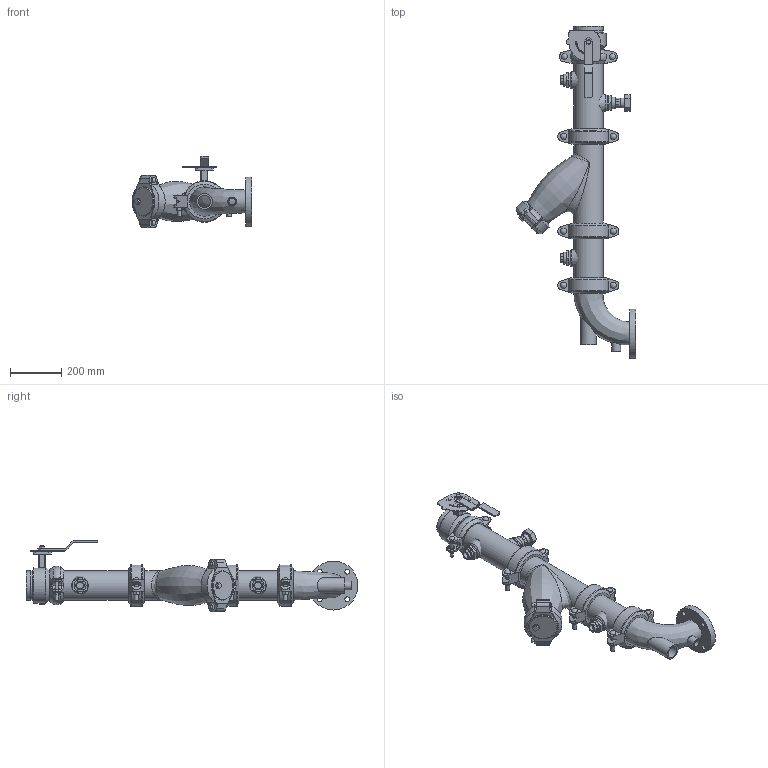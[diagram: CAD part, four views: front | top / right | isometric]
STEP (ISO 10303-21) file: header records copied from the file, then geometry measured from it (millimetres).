
FILE_DESCRIPTION(/* description */ ('VIC SVI PUMP DROP HORZ S/382 (OGSxFLG) (S/924-1.25)','CAx-IF Rec.Pracs.---Representation and Presentation of Product Manufacturing Information (PMI)---4.0---2014-10-13'),/* implementation_level */ '2;1');
FILE_NAME(/* name */ 'C:\Users\Vjadhav\AppData\Roaming\Autodesk\ApplicationPlugins\Victaulic.Temp\A562\Victaulic_IPS_Horizontal SVI_CL 150_Series 382 (OGSxFLG)_924 (1.25)_04.0x03.0 (100x80).stp',/* time_stamp */ '2022-02-28T19:57:41+05:00',/* author */ ('kkamble'),/* organization */ ('Victaulic'),/* preprocessor_version */ 'ST-DEVELOPER v17.2',/* originating_system */ 'Autodesk Inventor 2019',/* authorisation */ '');
FILE_SCHEMA (('AP242_MANAGED_MODEL_BASED_3D_ENGINEERING_MIM_LF { 1 0 10303 442 1 1 4 }'));
Length unit declared in the file: inch
Products named in the file (13): 382_924 (1.25)-04.0x03.0; PIPE-04.0; 107N-04.0; 732-04.0; 732-04.0_1; 07-04.0; 732-04.0_2; PIPE-04.2; 761-04.0; 924-04.0x01.25; 177N-04.0; 923-04.0x0.75; R100F-04.0x03.0
Assembly tree (15 placements, depth 3):
  382_924 (1.25)-04.0x03.0
    PIPE-04.0
    107N-04.0
    732-04.0
      732-04.0_1
      07-04.0
      732-04.0_2
    177N-04.0  x3
    PIPE-04.2
    761-04.0
    924-04.0x01.25
    923-04.0x0.75  x2
    R100F-04.0x03.0
Bounding box: 464.88 x 1290.64 x 276.13 mm (x, y, z)
Volume: 8062893.7 mm3; surface area: 1806037.9 mm2
Topology: 14 solids, 18 shells, 873 faces, 2261 edges, 1510 vertices
Faces by surface type: plane 494, cylinder 288, torus 28, cone 27, bspline 26, sphere 10
Full cylindrical faces by diameter (mm): 4.826 x10, 8.636 x4, 12.7 x8, 14.986 x2, 15.875 x6, 19.05 x4, 21.336 x1, 22.225 x4, 22.86 x1, 23.495 x6, 25.4 x3, 26.67 x4, 34.29 x1, 38.608 x1, 42.164 x1, 45.974 x6, 48.26 x1, 48.514 x1, 55.118 x1, 55.626 x3, 60.96 x1, 77.927 x1, 95.25 x1, 98.831 x1, 99.06 x1, 101.6 x4, 102.26 x4, 107.95 x1, 110.084 x11, 114.3 x26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
Entity records: 25353 total; most frequent: CARTESIAN_POINT 8164, DIRECTION 3492, ORIENTED_EDGE 3262, EDGE_CURVE 1631, AXIS2_PLACEMENT_3D 1322, VERTEX_POINT 1096, LINE 848, VECTOR 848
